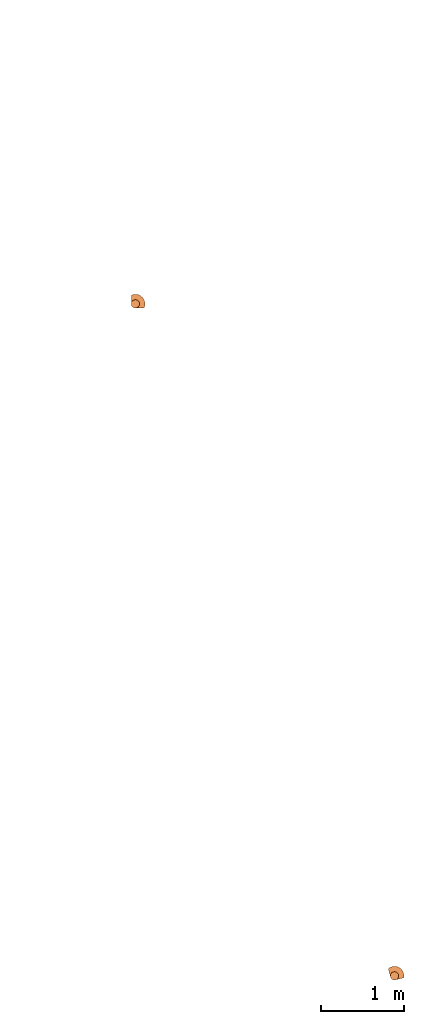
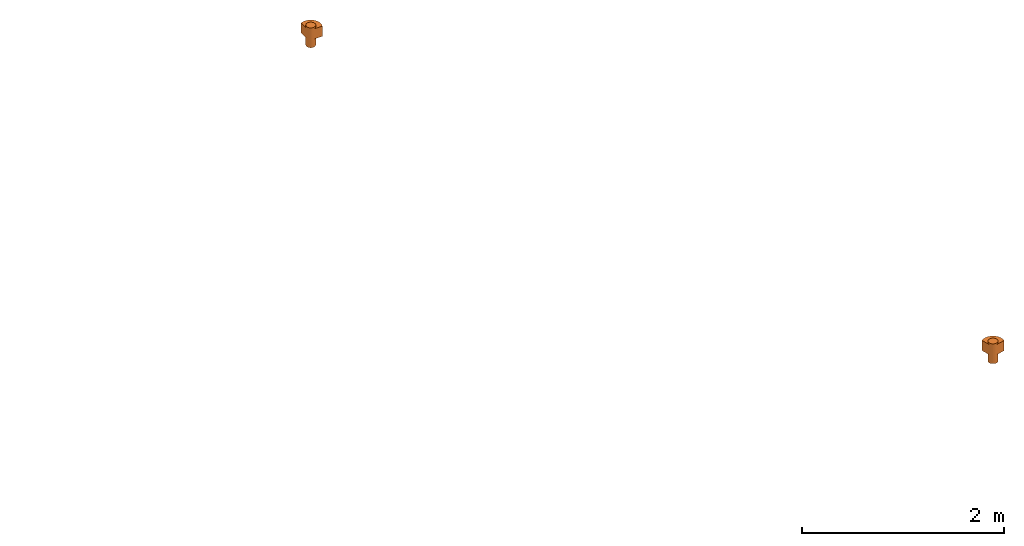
# One storey, part 3 of 3: 2 proxies.
"""IFC2X3 building model written with IfcOpenShell, lengths in centimetres."""

import ifcopenshell
import ifcopenshell.guid

model = None  # the IFC model being written
_history = None  # IfcOwnerHistory: only IFC2X3 demands one
_inside = {}  # id of a spatial element -> (the spatial element, [elements in it])
_under = {}  # id of a project, library or spatial element -> (it, [spatial elements below it])
_declared = {}  # id of a project -> (the project, [libraries it declares])
_typed = {}  # id of a type object -> (the type object, [elements of that type])
_made_of = {}  # id of a material, layer set ... -> (it, [elements and type objects made of it])


def new_model(schema):
    """Start an empty IFC model of exactly this schema.

    Asked for "IFC4X3", IfcOpenShell would pick the latest addendum, in which some entities
    have other attributes; the version numbers below select the first issue.
    IFC2X3 requires an IfcOwnerHistory on every rooted entity: one is made here for all.
    """
    global model, _history
    if schema == "IFC4X3":
        model = ifcopenshell.file(schema_version=(4, 3, 0, 0))
    else:
        model = ifcopenshell.file(schema=schema)
    _inside.clear()
    _under.clear()
    _declared.clear()
    _typed.clear()
    _made_of.clear()
    _history = None
    if model.schema == "IFC2X3":
        org = make("IfcOrganization", Name="unknown")
        user = make(
            "IfcPersonAndOrganization",
            ThePerson=make("IfcPerson", FamilyName="unknown"),
            TheOrganization=org,
        )
        app = make(
            "IfcApplication",
            ApplicationDeveloper=org,
            Version="unknown",
            ApplicationFullName="unknown",
            ApplicationIdentifier="unknown",
        )
        _history = make(
            "IfcOwnerHistory",
            OwningUser=user,
            OwningApplication=app,
            ChangeAction="ADDED",
            CreationDate=0,
        )
    return model


def make(cls, **values):
    """One entity of the class cls with the attributes given. An attribute that is None is left unset."""
    return model.create_entity(
        cls, **{name: value for name, value in values.items() if value is not None}
    )


def entity(cls, *values):
    """Any entity or typed value of the class cls, its attributes in the order of the schema. None: left unset."""
    e = model.create_entity(cls)
    for i, value in enumerate(values):
        if value is not None:
            e[i] = value
    return e


def rooted(cls, **values):
    """An entity with a GlobalId (a new one), such as an element, a storey or a relation."""
    return make(cls, GlobalId=ifcopenshell.guid.new(), OwnerHistory=_history, **values)


def si_unit(unit_type, name, prefix=None):
    """IfcSIUnit, for example si_unit("LENGTHUNIT", "METRE", prefix="MILLI")."""
    return make("IfcSIUnit", UnitType=unit_type, Prefix=prefix, Name=name)


def converted_unit(unit_type, name, factor, base, dimensions=None, offset=None):
    """IfcConversionBasedUnit, such as the inch: factor (a typed value) times the base unit."""
    return make(
        "IfcConversionBasedUnit"
        if offset is None
        else "IfcConversionBasedUnitWithOffset",
        ConversionOffset=offset,
        Dimensions=None
        if dimensions is None
        else entity("IfcDimensionalExponents", *dimensions),
        UnitType=unit_type,
        Name=name,
        ConversionFactor=make(
            "IfcMeasureWithUnit", ValueComponent=factor, UnitComponent=base
        ),
    )


def derived_unit(unit_type, elements):
    """IfcDerivedUnit: a product of units, each with its exponent."""
    return make(
        "IfcDerivedUnit",
        Elements=[
            make("IfcDerivedUnitElement", Unit=unit, Exponent=power)
            for unit, power in elements
        ],
        UnitType=unit_type,
    )


def assignment(units):
    """IfcUnitAssignment: the units of a project."""
    return None if units is None else make("IfcUnitAssignment", Units=units)


def point(xyz):
    """IfcCartesianPoint."""
    return None if xyz is None else make("IfcCartesianPoint", Coordinates=xyz)


def direction(xyz):
    """IfcDirection."""
    return None if xyz is None else make("IfcDirection", DirectionRatios=xyz)


def frame(location, z_axis=None, x_axis=None):
    """IfcAxis2Placement3D, a coordinate frame: its origin and axes. An axis left out is left unset."""
    return make(
        "IfcAxis2Placement3D",
        Location=point(location),
        Axis=direction(z_axis),
        RefDirection=direction(x_axis),
    )


def origin():
    """The frame at (0, 0, 0) with its axes left unset."""
    return frame((0.0, 0.0, 0.0))


def place(relative_to, where):
    """IfcLocalPlacement: puts the frame where relative to a parent placement (None: the world)."""
    return make(
        "IfcLocalPlacement", PlacementRelTo=relative_to, RelativePlacement=where
    )


def context(
    kind, dimensions, precision=None, world=None, true_north=None, identifier=None
):
    """IfcGeometricRepresentationContext, for example the 3D "Model" context."""
    return make(
        "IfcGeometricRepresentationContext",
        ContextIdentifier=identifier,
        ContextType=kind,
        CoordinateSpaceDimension=dimensions,
        Precision=precision,
        WorldCoordinateSystem=world,
        TrueNorth=true_north,
    )


def subcontext(parent, identifier, kind, view, scale=None):
    """IfcGeometricRepresentationSubContext, for example "Body" below "Model"."""
    return make(
        "IfcGeometricRepresentationSubContext",
        ContextIdentifier=identifier,
        ContextType=kind,
        ParentContext=parent,
        TargetScale=scale,
        TargetView=view,
    )


def project(units=None, contexts=None):
    """IfcProject with its units and contexts."""
    return rooted(
        "IfcProject",
        Name="project",
        RepresentationContexts=contexts,
        UnitsInContext=assignment(units),
    )


def spatial(cls, under=None, at=None, **own):
    """A site, building, storey or space (cls), placed at a placement, below another one or the project."""
    s = rooted(cls, ObjectPlacement=at, **own)
    if under is not None:
        _under.setdefault(under.id(), (under, []))[1].append(s)
    return s


def faces_of(points, faces, orient=None, outer=None):
    """IfcFace entities. A face is a list of loops; a loop is a list of indices into points, from 0.

    orient and outer hold one flag for each loop. By default every Orientation is true, the
    first loop of a face is its IfcFaceOuterBound and the others are IfcFaceBound.
    """
    made = []
    for i, loops in enumerate(faces):
        bounds = []
        for j, loop in enumerate(loops):
            is_outer = j == 0 if outer is None else outer[i][j]
            bounds.append(
                make(
                    "IfcFaceOuterBound" if is_outer else "IfcFaceBound",
                    Bound=make("IfcPolyLoop", Polygon=[points[k] for k in loop]),
                    Orientation=True if orient is None else orient[i][j],
                )
            )
        made.append(make("IfcFace", Bounds=bounds))
    return made


def faceted_brep(points, faces, orient=None, outer=None, voids=None):
    """IfcFacetedBrep: a solid bounded by flat faces; with voids (closed shells), ...WithVoids."""
    shared = [point(p) for p in points]
    hull = make("IfcClosedShell", CfsFaces=faces_of(shared, faces, orient, outer))
    if voids is None:
        return make("IfcFacetedBrep", Outer=hull)
    return make(
        "IfcFacetedBrepWithVoids",
        Outer=hull,
        Voids=[
            make(cls, CfsFaces=faces_of(shared, fs, o, b)) for cls, fs, o, b in voids
        ],
    )


def shape(context_of_items, identifier, shape_type, items):
    """IfcShapeRepresentation: the items that make up one representation, for example the "Body"."""
    return make(
        "IfcShapeRepresentation",
        ContextOfItems=context_of_items,
        RepresentationIdentifier=identifier,
        RepresentationType=shape_type,
        Items=items,
    )


def source(mapping_origin, context_of_items, identifier, shape_type, items):
    """IfcRepresentationMap: a shape defined once, which mapped items show again and again."""
    return make(
        "IfcRepresentationMap",
        MappingOrigin=mapping_origin,
        MappedRepresentation=shape(context_of_items, identifier, shape_type, items),
    )


def transform(
    local_origin,
    x_axis=None,
    y_axis=None,
    z_axis=None,
    scale=None,
    scale2=None,
    scale3=None,
    uniform=True,
):
    """IfcCartesianTransformationOperator3D, or its non-uniform kind. x_axis, y_axis, z_axis: its Axis1, 2, 3."""
    if uniform:
        return make(
            "IfcCartesianTransformationOperator3D",
            Axis1=direction(x_axis),
            Axis2=direction(y_axis),
            LocalOrigin=point(local_origin),
            Scale=scale,
            Axis3=direction(z_axis),
        )
    return make(
        "IfcCartesianTransformationOperator3DnonUniform",
        Axis1=direction(x_axis),
        Axis2=direction(y_axis),
        LocalOrigin=point(local_origin),
        Scale=scale,
        Axis3=direction(z_axis),
        Scale2=scale2,
        Scale3=scale3,
    )


def mapped(mapping_source, mapping_target):
    """IfcMappedItem: shows the shape of a source again, moved by a transform."""
    return make(
        "IfcMappedItem", MappingSource=mapping_source, MappingTarget=mapping_target
    )


def material(Name=None, Category=None):
    """IfcMaterial."""
    return make("IfcMaterial", Name=Name, Category=Category)


def made_of(thing, what):
    """Note that an element or type object is made of a material, layer set ...; save() writes the relation."""
    if what is not None:
        _made_of.setdefault(what.id(), (what, []))[1].append(thing)
    return thing


def type_object(cls, material=None, **own):
    """A type object (cls), such as IfcWallType, which elements share."""
    return made_of(rooted(cls, **own), material)


def type_shapes(of_type, sources):
    """Give a type object the sources (RepresentationMaps) that its elements show as mapped items."""
    of_type.RepresentationMaps = sources


def element(
    cls,
    number,
    at=None,
    inside=None,
    cuts=None,
    type_object=None,
    material=None,
    context=None,
    identifier="Body",
    shape_type=None,
    held_by="IfcProductDefinitionShape",
    body=None,
    shapes=None,
    **own,
):
    """One element of the class cls, such as IfcWall. Its Tag is "e" and its number.

    at: its placement. inside: the storey or other place that contains it. cuts: it is an
    opening in that element (IfcRelVoidsElement). A single representation is given by context,
    identifier, shape_type and body (its items); several are given by shapes. held_by: the class
    of the entity that holds the representations. save() writes the other relations.
    """
    e = rooted(cls, Tag="e%d" % number, ObjectPlacement=at, **own)
    if body is not None:
        shapes = [shape(context, identifier, shape_type, body)]
    if shapes is not None:
        e.Representation = make(held_by, Representations=shapes)
    if inside is not None:
        _inside.setdefault(inside.id(), (inside, []))[1].append(e)
    if cuts is not None:
        rooted(
            "IfcRelVoidsElement", RelatingBuildingElement=cuts, RelatedOpeningElement=e
        )
    if type_object is not None:
        _typed.setdefault(type_object.id(), (type_object, []))[1].append(e)
    return made_of(e, material)


def aggregate(whole, parts):
    """IfcRelAggregates: a whole, such as a stair, and the parts it consists of."""
    return rooted("IfcRelAggregates", RelatingObject=whole, RelatedObjects=parts)


def save(model, path):
    """Write the relations noted so far, then the file.

    IfcRelAggregates (storeys below a building ...), IfcRelContainedInSpatialStructure (elements
    in a storey), IfcRelDefinesByType, IfcRelAssociatesMaterial and IfcRelDeclares: one each for
    every whole, place, type object, material and project.
    """
    for whole, parts in _under.values():
        aggregate(whole, parts)
    for where, things in _inside.values():
        rooted(
            "IfcRelContainedInSpatialStructure",
            RelatedElements=things,
            RelatingStructure=where,
        )
    for kind, things in _typed.values():
        rooted("IfcRelDefinesByType", RelatedObjects=things, RelatingType=kind)
    for what, things in _made_of.values():
        rooted("IfcRelAssociatesMaterial", RelatedObjects=things, RelatingMaterial=what)
    for by, libraries in _declared.values():
        rooted("IfcRelDeclares", RelatingContext=by, RelatedDefinitions=libraries)
    model.write(path)


model = new_model("IFC2X3")

# Units and contexts
model_context = context("Model", 3, precision=0.001, world=origin(), true_north=direction((6.12303176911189e-17, 1.0)))
body_context = subcontext(model_context, "Body", "Model", "MODEL_VIEW")
ifc_project = project(units=[si_unit("LENGTHUNIT", "METRE", prefix="CENTI"), si_unit("AREAUNIT", "SQUARE_METRE"), si_unit("VOLUMEUNIT", "CUBIC_METRE"), converted_unit("PLANEANGLEUNIT", "DEGREE", entity("IfcRatioMeasure", 0.0174532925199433), si_unit("PLANEANGLEUNIT", "RADIAN"), dimensions=[0, 0, 0, 0, 0, 0, 0]), si_unit("MASSUNIT", "GRAM", prefix="KILO"), derived_unit("MASSDENSITYUNIT", [(si_unit("MASSUNIT", "GRAM", prefix="KILO"), 1), (si_unit("LENGTHUNIT", "METRE"), -3)]), si_unit("TIMEUNIT", "SECOND"), si_unit("FREQUENCYUNIT", "HERTZ"), si_unit("THERMODYNAMICTEMPERATUREUNIT", "DEGREE_CELSIUS"), derived_unit("THERMALTRANSMITTANCEUNIT", [(si_unit("MASSUNIT", "GRAM", prefix="KILO"), 1), (si_unit("THERMODYNAMICTEMPERATUREUNIT", "KELVIN"), -1), (si_unit("TIMEUNIT", "SECOND"), -3)]), derived_unit("VOLUMETRICFLOWRATEUNIT", [(si_unit("LENGTHUNIT", "METRE"), 3), (si_unit("TIMEUNIT", "SECOND"), -1)]), si_unit("ELECTRICCURRENTUNIT", "AMPERE"), si_unit("ELECTRICVOLTAGEUNIT", "VOLT"), si_unit("POWERUNIT", "WATT"), si_unit("FORCEUNIT", "NEWTON"), si_unit("ILLUMINANCEUNIT", "LUX"), si_unit("LUMINOUSFLUXUNIT", "LUMEN"), si_unit("LUMINOUSINTENSITYUNIT", "CANDELA"), derived_unit("USERDEFINED", [(si_unit("MASSUNIT", "GRAM", prefix="KILO"), -1), (si_unit("LENGTHUNIT", "METRE"), -2), (si_unit("TIMEUNIT", "SECOND"), 3), (si_unit("LUMINOUSFLUXUNIT", "LUMEN"), 1)]), derived_unit("LINEARVELOCITYUNIT", [(si_unit("LENGTHUNIT", "METRE"), 1), (si_unit("TIMEUNIT", "SECOND"), -1)]), si_unit("PRESSUREUNIT", "PASCAL"), derived_unit("USERDEFINED", [(si_unit("LENGTHUNIT", "METRE"), -2), (si_unit("MASSUNIT", "GRAM", prefix="KILO"), 1), (si_unit("TIMEUNIT", "SECOND"), -2)])], contexts=[model_context])

# Site, building, storey
site_placement = place(None, origin())
site = spatial("IfcSite", under=ifc_project, at=site_placement, Name="Default", CompositionType="ELEMENT")
building_placement = place(site_placement, origin())
building = spatial("IfcBuilding", under=site, at=building_placement, Name="CAGE 03", CompositionType="ELEMENT")
storey_placement = place(building_placement, frame((0.0, 0.0, 675.0)))
storey = spatial("IfcBuildingStorey", under=building, at=storey_placement, Name="Ac R+2", CompositionType="ELEMENT", Elevation=675.0)

# Proxies
ifc_material = material(Name="BBGO_Résa")
building_element_proxy_type_1 = type_object("IfcBuildingElementProxyType", Name="Siphon de balcon", PredefinedType="NOTDEFINED", material=ifc_material)
shared_shape_1 = source(origin(), body_context, "Body", "Brep", [
    faceted_brep([(10.3541591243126, 16.4778834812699, 9.69999999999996), (10.3541591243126, 16.4778834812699, 0.0), (9.14825434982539, 15.9783813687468, 0.0), (9.14825434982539, 15.9783813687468, 9.69999999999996), (10.3541591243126, 16.4778834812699, 22.0), (9.14825434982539, 15.9783813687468, 22.0), (9.14825434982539, 15.9783813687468, 24.0), (10.3541591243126, 16.4778834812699, 24.0), (8.11272044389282, 15.1837882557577, 0.0), (8.11272044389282, 15.1837882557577, 9.69999999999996), (8.11272044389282, 15.1837882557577, 22.0), (8.11272044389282, 15.1837882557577, 24.0), (7.31812733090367, 14.1482543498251, 9.69999999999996), (7.31812733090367, 14.1482543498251, 0.0), (6.81862521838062, 12.9423495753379, 0.0), (6.81862521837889, 12.942349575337, 9.69999999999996), (7.31812733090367, 14.1482543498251, 22.0), (6.81862521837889, 12.942349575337, 22.0), (6.81862521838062, 12.9423495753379, 24.0), (7.31812733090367, 14.1482543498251, 24.0), (6.64825434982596, 11.6482543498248, 0.0), (6.64825434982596, 11.6482543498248, 9.69999999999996), (6.64825434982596, 11.6482543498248, 24.0), (6.64825434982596, 11.6482543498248, 22.0), (11.6482543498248, 16.6482543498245, 9.69999999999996), (11.6482543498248, 16.6482543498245, 0.0), (11.6482543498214, 16.6482543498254, 22.0), (11.6482543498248, 16.6482543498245, 24.0), (6.81862521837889, 10.3541591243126, 9.69999999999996), (6.81862521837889, 10.3541591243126, 0.0), (7.31812733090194, 9.14825434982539, 0.0), (7.31812733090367, 9.14825434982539, 9.69999999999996), (6.81862521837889, 10.3541591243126, 22.0), (7.31812733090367, 9.14825434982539, 22.0), (7.31812733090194, 9.14825434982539, 24.0), (6.81862521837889, 10.3541591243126, 24.0), (8.11272044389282, 8.11272044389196, 0.0), (8.11272044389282, 8.11272044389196, 9.69999999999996), (8.11272044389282, 8.11272044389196, 22.0), (8.11272044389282, 8.11272044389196, 24.0), (9.14825434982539, 7.31812733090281, 9.69999999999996), (9.14825434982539, 7.31812733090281, 0.0), (10.3541591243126, 6.81862521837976, 0.0), (10.3541591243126, 6.81862521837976, 9.69999999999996), (9.14825434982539, 7.31812733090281, 22.0), (10.3541591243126, 6.81862521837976, 22.0), (10.3541591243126, 6.81862521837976, 24.0), (9.14825434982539, 7.31812733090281, 24.0), (11.6482543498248, 6.64825434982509, 0.0), (11.6482543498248, 6.64825434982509, 9.69999999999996), (11.6482543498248, 6.64825434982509, 22.0), (11.6482543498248, 6.64825434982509, 24.0), (16.4778834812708, 10.3541591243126, 22.0), (15.978381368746, 9.14825434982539, 22.0), (15.1837882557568, 8.11272044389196, 22.0), (14.1482543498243, 7.31812733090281, 22.0), (12.942349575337, 6.81862521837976, 22.0), (1.29209676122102, 16.6482543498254, 22.0), (0.383832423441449, 13.964026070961, 22.0), (0.15952722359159, 11.1391875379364, 22.0), (0.632800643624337, 8.34525879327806, 22.0), (1.77491621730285, 5.75188308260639, 22.0), (3.51652636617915, 3.51652636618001, 22.0), (5.75188308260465, 1.77491621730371, 22.0), (8.34525879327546, 0.632800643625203, 22.0), (11.1391875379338, 0.159527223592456, 22.0), (13.9640260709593, 0.383832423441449, 22.0), (16.6482543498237, 1.29209676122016, 22.0), (16.6482543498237, 11.6482543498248, 22.0), (12.942349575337, 6.81862521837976, 9.69999999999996), (14.1482543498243, 7.31812733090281, 9.69999999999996), (15.1837882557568, 8.11272044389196, 9.69999999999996), (15.978381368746, 9.14825434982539, 9.69999999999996), (16.4778834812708, 10.3541591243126, 9.69999999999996), (16.6482543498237, 11.6482543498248, 9.69999999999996), (16.6482543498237, 1.29209676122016, 9.69999999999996), (13.9640260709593, 0.383832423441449, 9.69999999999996), (11.1391875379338, 0.159527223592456, 9.69999999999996), (8.34525879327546, 0.632800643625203, 9.69999999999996), (5.75188308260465, 1.77491621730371, 9.69999999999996), (3.51652636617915, 3.51652636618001, 9.69999999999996), (1.77491621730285, 5.75188308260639, 9.69999999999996), (0.632800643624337, 8.34525879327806, 9.69999999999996), (0.15952722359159, 11.1391875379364, 9.69999999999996), (0.383832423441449, 13.964026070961, 9.69999999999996), (1.29209676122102, 16.6482543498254, 9.69999999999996), (12.942349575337, 6.81862521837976, 24.0), (14.1482543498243, 7.31812733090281, 24.0), (15.1837882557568, 8.11272044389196, 24.0), (15.978381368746, 9.14825434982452, 24.0), (16.477883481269, 10.3541591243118, 24.0), (16.6482543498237, 11.6482543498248, 24.0), (16.4778834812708, 12.942349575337, 24.0), (15.9783813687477, 14.1482543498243, 24.0), (15.1837882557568, 15.1837882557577, 24.0), (14.1482543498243, 15.9783813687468, 24.0), (12.942349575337, 16.4778834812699, 24.0), (14.1482543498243, 7.31812733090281, 0.0), (12.942349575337, 6.81862521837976, 0.0), (12.942349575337, 16.4778834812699, 0.0), (14.1482543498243, 15.9783813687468, 0.0), (15.1837882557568, 15.1837882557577, 0.0), (15.9783813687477, 14.1482543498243, 0.0), (16.4778834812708, 12.942349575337, 0.0), (16.6482543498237, 11.6482543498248, 0.0), (16.477883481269, 10.3541591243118, 0.0), (15.978381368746, 9.14825434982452, 0.0), (15.1837882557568, 8.11272044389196, 0.0)], [[[0, 1, 2, 3]], [[4, 5, 6, 7]], [[8, 9, 3, 2]], [[5, 10, 11, 6]], [[12, 13, 14, 15]], [[16, 17, 18, 19]], [[8, 13, 12, 9]], [[10, 16, 19, 11]], [[15, 14, 20, 21]], [[22, 18, 17, 23]], [[1, 0, 24, 25]], [[26, 4, 7, 27]], [[28, 29, 30, 31]], [[32, 33, 34, 35]], [[36, 37, 31, 30]], [[33, 38, 39, 34]], [[40, 41, 42, 43]], [[44, 45, 46, 47]], [[36, 41, 40, 37]], [[38, 44, 47, 39]], [[43, 42, 48, 49]], [[45, 50, 51, 46]], [[29, 28, 21, 20]], [[32, 35, 22, 23]], [[52, 53, 54, 55, 56, 50, 45, 44, 38, 33, 32, 23, 17, 16, 10, 5, 4, 26, 57, 58, 59, 60, 61, 62, 63, 64, 65, 66, 67, 68]], [[21, 28, 31, 37, 40, 43, 49, 69, 70, 71, 72, 73, 74, 75, 76, 77, 78, 79, 80, 81, 82, 83, 84, 85, 24, 0, 3, 9, 12, 15]], [[57, 26, 24, 85]], [[58, 84, 83, 59]], [[60, 82, 81, 61]], [[83, 82, 60, 59]], [[61, 81, 80, 62]], [[84, 58, 57, 85]], [[63, 79, 78, 64]], [[65, 77, 76, 66]], [[78, 77, 65, 64]], [[66, 76, 75, 67]], [[79, 63, 62, 80]], [[68, 67, 75, 74]], [[22, 35, 34, 39, 47, 46, 51, 86, 87, 88, 89, 90, 91, 92, 93, 94, 95, 96, 27, 7, 6, 11, 19, 18]], [[97, 98, 48, 42, 41, 36, 30, 29, 20, 14, 13, 8, 2, 1, 25, 99, 100, 101, 102, 103, 104, 105, 106, 107]], [[48, 98, 69, 49]], [[51, 50, 56, 86]], [[97, 70, 69, 98]], [[56, 55, 87, 86]], [[107, 106, 72, 71]], [[54, 53, 89, 88]], [[107, 71, 70, 97]], [[54, 88, 87, 55]], [[106, 105, 73, 72]], [[89, 53, 52, 90]], [[74, 104, 103, 92, 91, 68]], [[105, 104, 74, 73]], [[52, 68, 91, 90]], [[92, 103, 102, 93]], [[99, 25, 24, 26, 27, 96]], [[94, 101, 100, 95]], [[99, 96, 95, 100]], [[93, 102, 101, 94]]]),
])
type_shapes(building_element_proxy_type_1, [shared_shape_1])
proxy_1_placement = place(storey_placement, frame((11271.0140744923, 4289.30892042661, 183.0), z_axis=(0.0, 0.0, 1.0), x_axis=(-1.0, 0.0, 0.0)))
element("IfcBuildingElementProxy", 1, at=proxy_1_placement, inside=storey, type_object=building_element_proxy_type_1, material=ifc_material, Name="Siphon de balcon31:Siphon de balcon", ObjectType="Siphon de balcon", context=body_context, shape_type="MappedRepresentation", body=[
    mapped(shared_shape_1, transform((0.0, 0.0, 0.0), scale=1.0)),
])
building_element_proxy_type_2 = type_object("IfcBuildingElementProxyType", Name="Siphon de balcon", PredefinedType="NOTDEFINED", material=ifc_material)
shared_shape_2 = source(origin(), body_context, "Body", "Brep", [
    faceted_brep([(10.3541591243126, 16.4778834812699, 9.69999999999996), (10.3541591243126, 16.4778834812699, 0.0), (9.14825434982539, 15.9783813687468, 0.0), (9.14825434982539, 15.9783813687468, 9.69999999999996), (10.3541591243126, 16.4778834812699, 22.0), (9.14825434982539, 15.9783813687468, 22.0), (9.14825434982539, 15.9783813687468, 24.0), (10.3541591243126, 16.4778834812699, 24.0), (8.11272044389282, 15.1837882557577, 0.0), (8.11272044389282, 15.1837882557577, 9.69999999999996), (8.11272044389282, 15.1837882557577, 22.0), (8.11272044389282, 15.1837882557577, 24.0), (7.31812733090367, 14.1482543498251, 9.69999999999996), (7.31812733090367, 14.1482543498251, 0.0), (6.81862521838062, 12.9423495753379, 0.0), (6.81862521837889, 12.942349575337, 9.69999999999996), (7.31812733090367, 14.1482543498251, 22.0), (6.81862521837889, 12.942349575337, 22.0), (6.81862521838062, 12.9423495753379, 24.0), (7.31812733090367, 14.1482543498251, 24.0), (6.64825434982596, 11.6482543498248, 0.0), (6.64825434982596, 11.6482543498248, 9.69999999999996), (6.64825434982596, 11.6482543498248, 24.0), (6.64825434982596, 11.6482543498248, 22.0), (11.6482543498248, 16.6482543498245, 9.69999999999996), (11.6482543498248, 16.6482543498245, 0.0), (11.6482543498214, 16.6482543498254, 22.0), (11.6482543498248, 16.6482543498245, 24.0), (6.81862521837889, 10.3541591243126, 9.69999999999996), (6.81862521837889, 10.3541591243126, 0.0), (7.31812733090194, 9.14825434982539, 0.0), (7.31812733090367, 9.14825434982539, 9.69999999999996), (6.81862521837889, 10.3541591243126, 22.0), (7.31812733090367, 9.14825434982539, 22.0), (7.31812733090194, 9.14825434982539, 24.0), (6.81862521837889, 10.3541591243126, 24.0), (8.11272044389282, 8.11272044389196, 0.0), (8.11272044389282, 8.11272044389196, 9.69999999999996), (8.11272044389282, 8.11272044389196, 22.0), (8.11272044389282, 8.11272044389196, 24.0), (9.14825434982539, 7.31812733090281, 9.69999999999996), (9.14825434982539, 7.31812733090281, 0.0), (10.3541591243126, 6.81862521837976, 0.0), (10.3541591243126, 6.81862521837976, 9.69999999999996), (9.14825434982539, 7.31812733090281, 22.0), (10.3541591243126, 6.81862521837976, 22.0), (10.3541591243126, 6.81862521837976, 24.0), (9.14825434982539, 7.31812733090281, 24.0), (11.6482543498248, 6.64825434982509, 0.0), (11.6482543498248, 6.64825434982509, 9.69999999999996), (11.6482543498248, 6.64825434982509, 22.0), (11.6482543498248, 6.64825434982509, 24.0), (16.4778834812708, 10.3541591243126, 22.0), (15.978381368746, 9.14825434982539, 22.0), (15.1837882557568, 8.11272044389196, 22.0), (14.1482543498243, 7.31812733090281, 22.0), (12.942349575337, 6.81862521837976, 22.0), (1.29209676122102, 16.6482543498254, 22.0), (0.383832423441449, 13.964026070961, 22.0), (0.15952722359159, 11.1391875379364, 22.0), (0.632800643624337, 8.34525879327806, 22.0), (1.77491621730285, 5.75188308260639, 22.0), (3.51652636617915, 3.51652636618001, 22.0), (5.75188308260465, 1.77491621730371, 22.0), (8.34525879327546, 0.632800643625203, 22.0), (11.1391875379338, 0.159527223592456, 22.0), (13.9640260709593, 0.383832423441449, 22.0), (16.6482543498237, 1.29209676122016, 22.0), (16.6482543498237, 11.6482543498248, 22.0), (12.942349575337, 6.81862521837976, 9.69999999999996), (14.1482543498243, 7.31812733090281, 9.69999999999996), (15.1837882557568, 8.11272044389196, 9.69999999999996), (15.978381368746, 9.14825434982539, 9.69999999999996), (16.4778834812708, 10.3541591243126, 9.69999999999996), (16.6482543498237, 11.6482543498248, 9.69999999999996), (16.6482543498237, 1.29209676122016, 9.69999999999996), (13.9640260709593, 0.383832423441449, 9.69999999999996), (11.1391875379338, 0.159527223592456, 9.69999999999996), (8.34525879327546, 0.632800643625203, 9.69999999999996), (5.75188308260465, 1.77491621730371, 9.69999999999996), (3.51652636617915, 3.51652636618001, 9.69999999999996), (1.77491621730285, 5.75188308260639, 9.69999999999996), (0.632800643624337, 8.34525879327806, 9.69999999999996), (0.15952722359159, 11.1391875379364, 9.69999999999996), (0.383832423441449, 13.964026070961, 9.69999999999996), (1.29209676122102, 16.6482543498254, 9.69999999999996), (12.942349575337, 6.81862521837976, 24.0), (14.1482543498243, 7.31812733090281, 24.0), (15.1837882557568, 8.11272044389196, 24.0), (15.978381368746, 9.14825434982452, 24.0), (16.477883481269, 10.3541591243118, 24.0), (16.6482543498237, 11.6482543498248, 24.0), (16.4778834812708, 12.942349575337, 24.0), (15.9783813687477, 14.1482543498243, 24.0), (15.1837882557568, 15.1837882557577, 24.0), (14.1482543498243, 15.9783813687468, 24.0), (12.942349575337, 16.4778834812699, 24.0), (14.1482543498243, 7.31812733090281, 0.0), (12.942349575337, 6.81862521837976, 0.0), (12.942349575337, 16.4778834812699, 0.0), (14.1482543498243, 15.9783813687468, 0.0), (15.1837882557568, 15.1837882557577, 0.0), (15.9783813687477, 14.1482543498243, 0.0), (16.4778834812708, 12.942349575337, 0.0), (16.6482543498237, 11.6482543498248, 0.0), (16.477883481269, 10.3541591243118, 0.0), (15.978381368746, 9.14825434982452, 0.0), (15.1837882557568, 8.11272044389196, 0.0)], [[[0, 1, 2, 3]], [[4, 5, 6, 7]], [[8, 9, 3, 2]], [[5, 10, 11, 6]], [[12, 13, 14, 15]], [[16, 17, 18, 19]], [[8, 13, 12, 9]], [[10, 16, 19, 11]], [[15, 14, 20, 21]], [[22, 18, 17, 23]], [[1, 0, 24, 25]], [[26, 4, 7, 27]], [[28, 29, 30, 31]], [[32, 33, 34, 35]], [[36, 37, 31, 30]], [[33, 38, 39, 34]], [[40, 41, 42, 43]], [[44, 45, 46, 47]], [[36, 41, 40, 37]], [[38, 44, 47, 39]], [[43, 42, 48, 49]], [[45, 50, 51, 46]], [[29, 28, 21, 20]], [[32, 35, 22, 23]], [[52, 53, 54, 55, 56, 50, 45, 44, 38, 33, 32, 23, 17, 16, 10, 5, 4, 26, 57, 58, 59, 60, 61, 62, 63, 64, 65, 66, 67, 68]], [[21, 28, 31, 37, 40, 43, 49, 69, 70, 71, 72, 73, 74, 75, 76, 77, 78, 79, 80, 81, 82, 83, 84, 85, 24, 0, 3, 9, 12, 15]], [[57, 26, 24, 85]], [[58, 84, 83, 59]], [[60, 82, 81, 61]], [[83, 82, 60, 59]], [[61, 81, 80, 62]], [[84, 58, 57, 85]], [[63, 79, 78, 64]], [[65, 77, 76, 66]], [[78, 77, 65, 64]], [[66, 76, 75, 67]], [[79, 63, 62, 80]], [[68, 67, 75, 74]], [[22, 35, 34, 39, 47, 46, 51, 86, 87, 88, 89, 90, 91, 92, 93, 94, 95, 96, 27, 7, 6, 11, 19, 18]], [[97, 98, 48, 42, 41, 36, 30, 29, 20, 14, 13, 8, 2, 1, 25, 99, 100, 101, 102, 103, 104, 105, 106, 107]], [[48, 98, 69, 49]], [[51, 50, 56, 86]], [[97, 70, 69, 98]], [[56, 55, 87, 86]], [[107, 106, 72, 71]], [[54, 53, 89, 88]], [[107, 71, 70, 97]], [[54, 88, 87, 55]], [[106, 105, 73, 72]], [[89, 53, 52, 90]], [[74, 104, 103, 92, 91, 68]], [[105, 104, 74, 73]], [[52, 68, 91, 90]], [[92, 103, 102, 93]], [[99, 25, 24, 26, 27, 96]], [[94, 101, 100, 95]], [[99, 96, 95, 100]], [[93, 102, 101, 94]]]),
])
type_shapes(building_element_proxy_type_2, [shared_shape_2])
proxy_2_placement = place(storey_placement, frame((11579.6647062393, 3482.64059211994, 183.0), z_axis=(0.0, 0.0, 1.0), x_axis=(-0.96809319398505, -0.250590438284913, 0.0)))
element("IfcBuildingElementProxy", 2, at=proxy_2_placement, inside=storey, type_object=building_element_proxy_type_2, material=ifc_material, Name="Siphon de balcon33:Siphon de balcon", ObjectType="Siphon de balcon", context=body_context, shape_type="MappedRepresentation", body=[
    mapped(shared_shape_2, transform((0.0, 0.0, 0.0), scale=1.0)),
])

save(model, "model.ifc")
